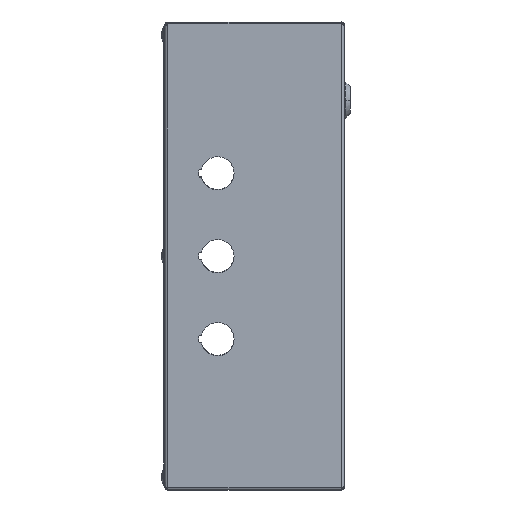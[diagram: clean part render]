
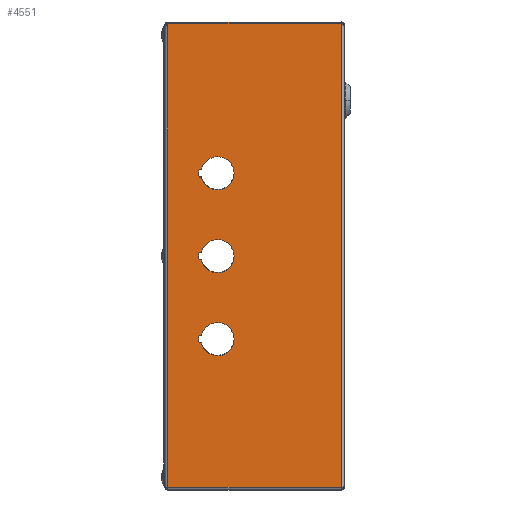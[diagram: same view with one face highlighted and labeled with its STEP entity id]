
A CAD part, front view. The second image highlights one B-rep face of the part: STEP entity #4551.
In plain terms, the highlighted planar face has unit normal (0, -1, 0).
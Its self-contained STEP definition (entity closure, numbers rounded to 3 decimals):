
#116 = DIRECTION ( 'NONE',  ( 0., 0., -1. ) ) ;
#122 = CARTESIAN_POINT ( 'NONE',  ( 6., 0., 1.9 ) ) ;
#250 = DIRECTION ( 'NONE',  ( 0., 0., -1. ) ) ;
#295 = VERTEX_POINT ( 'NONE', #122 ) ;
#659 = CARTESIAN_POINT ( 'NONE',  ( 121.2, 0., 310.3 ) ) ;
#719 = AXIS2_PLACEMENT_3D ( 'NONE', #3611, #7327, #6092 ) ;
#741 = LINE ( 'NONE', #5635, #2174 ) ;
#748 = LINE ( 'NONE', #1510, #7350 ) ;
#852 = ORIENTED_EDGE ( 'NONE', *, *, #13696, .T. ) ;
#868 = LINE ( 'NONE', #9897, #3781 ) ;
#966 = CARTESIAN_POINT ( 'NONE',  ( 6., 0., 309. ) ) ;
#984 = DIRECTION ( 'NONE',  ( -0.98, 0., 0.2 ) ) ;
#1073 = DIRECTION ( 'NONE',  ( 0., 0., -1. ) ) ;
#1103 = CARTESIAN_POINT ( 'NONE',  ( 6., 0., 310.3 ) ) ;
#1164 = DIRECTION ( 'NONE',  ( 0., 1., 0. ) ) ;
#1180 = EDGE_LOOP ( 'NONE', ( #3453, #11920, #8061, #6905, #8534, #2479 ) ) ;
#1210 = CIRCLE ( 'NONE', #1660, 11. ) ;
#1290 = AXIS2_PLACEMENT_3D ( 'NONE', #15051, #8016, #984 ) ;
#1494 = VERTEX_POINT ( 'NONE', #3379 ) ;
#1510 = CARTESIAN_POINT ( 'NONE',  ( 6., 0., 1.9 ) ) ;
#1660 = AXIS2_PLACEMENT_3D ( 'NONE', #2405, #14189, #3449 ) ;
#1778 = CARTESIAN_POINT ( 'NONE',  ( 6., 0., 309. ) ) ;
#1835 = DIRECTION ( 'NONE',  ( 1., 0., 0. ) ) ;
#1973 = CARTESIAN_POINT ( 'NONE',  ( 28.288, 0., 97.5 ) ) ;
#2137 = LINE ( 'NONE', #13218, #4909 ) ;
#2174 = VECTOR ( 'NONE', #15196, 1000. ) ;
#2326 = EDGE_LOOP ( 'NONE', ( #11305, #5621, #6330, #13538 ) ) ;
#2405 = CARTESIAN_POINT ( 'NONE',  ( 39., 0., 210. ) ) ;
#2479 = ORIENTED_EDGE ( 'NONE', *, *, #4192, .F. ) ;
#2713 = CARTESIAN_POINT ( 'NONE',  ( 28.288, 0., 157.5 ) ) ;
#2793 = VERTEX_POINT ( 'NONE', #9286 ) ;
#3131 = CARTESIAN_POINT ( 'NONE',  ( 26.753, 0., 207.5 ) ) ;
#3201 = VERTEX_POINT ( 'NONE', #9311 ) ;
#3235 = PLANE ( 'NONE',  #15007 ) ;
#3252 = CARTESIAN_POINT ( 'NONE',  ( 26.753, 0., 152.5 ) ) ;
#3379 = CARTESIAN_POINT ( 'NONE',  ( 26.753, 0., 97.5 ) ) ;
#3389 = DIRECTION ( 'NONE',  ( 0., -1., 0. ) ) ;
#3449 = DIRECTION ( 'NONE',  ( -0.974, 0., -0.227 ) ) ;
#3453 = ORIENTED_EDGE ( 'NONE', *, *, #4396, .T. ) ;
#3496 = VERTEX_POINT ( 'NONE', #1778 ) ;
#3611 = CARTESIAN_POINT ( 'NONE',  ( 39., 0., 155. ) ) ;
#3781 = VECTOR ( 'NONE', #11115, 1000. ) ;
#3816 = EDGE_CURVE ( 'NONE', #295, #11671, #748, .T. ) ;
#4005 = VERTEX_POINT ( 'NONE', #10126 ) ;
#4071 = CIRCLE ( 'NONE', #719, 11. ) ;
#4143 = EDGE_CURVE ( 'NONE', #6189, #10529, #13396, .T. ) ;
#4192 = EDGE_CURVE ( 'NONE', #13753, #7251, #8058, .T. ) ;
#4194 = VECTOR ( 'NONE', #1073, 1000. ) ;
#4196 = CARTESIAN_POINT ( 'NONE',  ( 6., 0., 310.3 ) ) ;
#4347 = ORIENTED_EDGE ( 'NONE', *, *, #13162, .T. ) ;
#4384 = DIRECTION ( 'NONE',  ( 1., 0., 0. ) ) ;
#4390 = ORIENTED_EDGE ( 'NONE', *, *, #10778, .T. ) ;
#4396 = EDGE_CURVE ( 'NONE', #13753, #3496, #2137, .T. ) ;
#4506 = CARTESIAN_POINT ( 'NONE',  ( 39., 0., 155. ) ) ;
#4551 = ADVANCED_FACE ( 'NONE', ( #12447, #7481, #12981, #9909 ), #3235, .T. ) ;
#4909 = VECTOR ( 'NONE', #250, 1000. ) ;
#4911 = CIRCLE ( 'NONE', #1290, 12.5 ) ;
#5185 = CARTESIAN_POINT ( 'NONE',  ( 28.288, 0., 212.5 ) ) ;
#5224 = EDGE_LOOP ( 'NONE', ( #10959, #4390, #6127, #5307 ) ) ;
#5227 = VERTEX_POINT ( 'NONE', #5934 ) ;
#5307 = ORIENTED_EDGE ( 'NONE', *, *, #11624, .T. ) ;
#5500 = LINE ( 'NONE', #2713, #7144 ) ;
#5621 = ORIENTED_EDGE ( 'NONE', *, *, #6463, .T. ) ;
#5635 = CARTESIAN_POINT ( 'NONE',  ( 28.288, 0., 102.5 ) ) ;
#5728 = CARTESIAN_POINT ( 'NONE',  ( 39., 0., 210. ) ) ;
#5750 = DIRECTION ( 'NONE',  ( -0.98, 0., 0.2 ) ) ;
#5820 = ORIENTED_EDGE ( 'NONE', *, *, #9817, .T. ) ;
#5934 = CARTESIAN_POINT ( 'NONE',  ( 26.753, 0., 102.5 ) ) ;
#5967 = DIRECTION ( 'NONE',  ( -1., 0., 0. ) ) ;
#6017 = VERTEX_POINT ( 'NONE', #13661 ) ;
#6092 = DIRECTION ( 'NONE',  ( -0.974, 0., -0.227 ) ) ;
#6127 = ORIENTED_EDGE ( 'NONE', *, *, #8596, .T. ) ;
#6140 = DIRECTION ( 'NONE',  ( 1., 0., 0. ) ) ;
#6189 = VERTEX_POINT ( 'NONE', #8171 ) ;
#6330 = ORIENTED_EDGE ( 'NONE', *, *, #10460, .T. ) ;
#6361 = EDGE_CURVE ( 'NONE', #8673, #12529, #11289, .T. ) ;
#6463 = EDGE_CURVE ( 'NONE', #10529, #3201, #13651, .T. ) ;
#6565 = CARTESIAN_POINT ( 'NONE',  ( 28.288, 0., 212.5 ) ) ;
#6736 = CARTESIAN_POINT ( 'NONE',  ( 28.288, 0., 102.5 ) ) ;
#6904 = DIRECTION ( 'NONE',  ( -0.974, 0., -0.227 ) ) ;
#6905 = ORIENTED_EDGE ( 'NONE', *, *, #13612, .T. ) ;
#7071 = EDGE_CURVE ( 'NONE', #2793, #6189, #4071, .T. ) ;
#7144 = VECTOR ( 'NONE', #12140, 1000. ) ;
#7251 = VERTEX_POINT ( 'NONE', #659 ) ;
#7327 = DIRECTION ( 'NONE',  ( 0., 1., 0. ) ) ;
#7350 = VECTOR ( 'NONE', #6140, 1000. ) ;
#7481 = FACE_BOUND ( 'NONE', #12818, .T. ) ;
#7698 = VECTOR ( 'NONE', #4384, 1000. ) ;
#7709 = LINE ( 'NONE', #966, #4194 ) ;
#8016 = DIRECTION ( 'NONE',  ( 0., 1., 0. ) ) ;
#8048 = CARTESIAN_POINT ( 'NONE',  ( 6., 0., 310.3 ) ) ;
#8058 = LINE ( 'NONE', #8048, #7698 ) ;
#8061 = ORIENTED_EDGE ( 'NONE', *, *, #3816, .T. ) ;
#8148 = DIRECTION ( 'NONE',  ( -0.98, 0., 0.2 ) ) ;
#8162 = EDGE_CURVE ( 'NONE', #7251, #6017, #11762, .T. ) ;
#8171 = CARTESIAN_POINT ( 'NONE',  ( 28.288, 0., 152.5 ) ) ;
#8178 = DIRECTION ( 'NONE',  ( 0., 1., 0. ) ) ;
#8359 = AXIS2_PLACEMENT_3D ( 'NONE', #5728, #1164, #8148 ) ;
#8484 = CARTESIAN_POINT ( 'NONE',  ( 26.753, 0., 97.5 ) ) ;
#8518 = VERTEX_POINT ( 'NONE', #1973 ) ;
#8534 = ORIENTED_EDGE ( 'NONE', *, *, #8162, .F. ) ;
#8596 = EDGE_CURVE ( 'NONE', #5227, #13210, #741, .T. ) ;
#8652 = VECTOR ( 'NONE', #116, 1000. ) ;
#8654 = EDGE_CURVE ( 'NONE', #3496, #295, #7709, .T. ) ;
#8673 = VERTEX_POINT ( 'NONE', #14003 ) ;
#9177 = VECTOR ( 'NONE', #14988, 1000. ) ;
#9286 = CARTESIAN_POINT ( 'NONE',  ( 28.288, 0., 157.5 ) ) ;
#9311 = CARTESIAN_POINT ( 'NONE',  ( 26.753, 0., 157.5 ) ) ;
#9681 = CIRCLE ( 'NONE', #10323, 11. ) ;
#9759 = AXIS2_PLACEMENT_3D ( 'NONE', #4506, #8178, #5750 ) ;
#9817 = EDGE_CURVE ( 'NONE', #13499, #4005, #1210, .T. ) ;
#9897 = CARTESIAN_POINT ( 'NONE',  ( 121.2, 0., 1.9 ) ) ;
#9909 = FACE_BOUND ( 'NONE', #2326, .T. ) ;
#10126 = CARTESIAN_POINT ( 'NONE',  ( 28.288, 0., 207.5 ) ) ;
#10323 = AXIS2_PLACEMENT_3D ( 'NONE', #13940, #15124, #6904 ) ;
#10460 = EDGE_CURVE ( 'NONE', #3201, #2793, #5500, .T. ) ;
#10529 = VERTEX_POINT ( 'NONE', #14609 ) ;
#10631 = VECTOR ( 'NONE', #1835, 1000. ) ;
#10778 = EDGE_CURVE ( 'NONE', #1494, #5227, #4911, .T. ) ;
#10898 = LINE ( 'NONE', #3131, #11075 ) ;
#10959 = ORIENTED_EDGE ( 'NONE', *, *, #13488, .T. ) ;
#11010 = VECTOR ( 'NONE', #5967, 1000. ) ;
#11075 = VECTOR ( 'NONE', #14861, 1000. ) ;
#11115 = DIRECTION ( 'NONE',  ( 0., 0., 1. ) ) ;
#11289 = CIRCLE ( 'NONE', #8359, 12.5 ) ;
#11305 = ORIENTED_EDGE ( 'NONE', *, *, #4143, .T. ) ;
#11624 = EDGE_CURVE ( 'NONE', #13210, #8518, #9681, .T. ) ;
#11671 = VERTEX_POINT ( 'NONE', #11895 ) ;
#11762 = LINE ( 'NONE', #14122, #8652 ) ;
#11895 = CARTESIAN_POINT ( 'NONE',  ( 121.2, 0., 1.9 ) ) ;
#11920 = ORIENTED_EDGE ( 'NONE', *, *, #8654, .T. ) ;
#12140 = DIRECTION ( 'NONE',  ( 1., 0., 0. ) ) ;
#12447 = FACE_OUTER_BOUND ( 'NONE', #1180, .T. ) ;
#12529 = VERTEX_POINT ( 'NONE', #13743 ) ;
#12818 = EDGE_LOOP ( 'NONE', ( #4347, #14496, #852, #5820 ) ) ;
#12981 = FACE_BOUND ( 'NONE', #5224, .T. ) ;
#13162 = EDGE_CURVE ( 'NONE', #4005, #8673, #10898, .T. ) ;
#13210 = VERTEX_POINT ( 'NONE', #6736 ) ;
#13218 = CARTESIAN_POINT ( 'NONE',  ( 6., 0., 310.3 ) ) ;
#13352 = LINE ( 'NONE', #6565, #10631 ) ;
#13396 = LINE ( 'NONE', #3252, #9177 ) ;
#13488 = EDGE_CURVE ( 'NONE', #8518, #1494, #14101, .T. ) ;
#13499 = VERTEX_POINT ( 'NONE', #5185 ) ;
#13538 = ORIENTED_EDGE ( 'NONE', *, *, #7071, .T. ) ;
#13612 = EDGE_CURVE ( 'NONE', #11671, #6017, #868, .T. ) ;
#13651 = CIRCLE ( 'NONE', #9759, 12.5 ) ;
#13661 = CARTESIAN_POINT ( 'NONE',  ( 121.2, 0., 309. ) ) ;
#13696 = EDGE_CURVE ( 'NONE', #12529, #13499, #13352, .T. ) ;
#13743 = CARTESIAN_POINT ( 'NONE',  ( 26.753, 0., 212.5 ) ) ;
#13753 = VERTEX_POINT ( 'NONE', #4196 ) ;
#13940 = CARTESIAN_POINT ( 'NONE',  ( 39., 0., 100. ) ) ;
#14003 = CARTESIAN_POINT ( 'NONE',  ( 26.753, 0., 207.5 ) ) ;
#14101 = LINE ( 'NONE', #8484, #11010 ) ;
#14122 = CARTESIAN_POINT ( 'NONE',  ( 121.2, 0., 310.3 ) ) ;
#14189 = DIRECTION ( 'NONE',  ( 0., 1., 0. ) ) ;
#14496 = ORIENTED_EDGE ( 'NONE', *, *, #6361, .T. ) ;
#14609 = CARTESIAN_POINT ( 'NONE',  ( 26.753, 0., 152.5 ) ) ;
#14861 = DIRECTION ( 'NONE',  ( -1., 0., 0. ) ) ;
#14971 = DIRECTION ( 'NONE',  ( 0., 0., 1. ) ) ;
#14988 = DIRECTION ( 'NONE',  ( -1., 0., 0. ) ) ;
#15007 = AXIS2_PLACEMENT_3D ( 'NONE', #1103, #3389, #14971 ) ;
#15051 = CARTESIAN_POINT ( 'NONE',  ( 39., 0., 100. ) ) ;
#15124 = DIRECTION ( 'NONE',  ( 0., 1., 0. ) ) ;
#15196 = DIRECTION ( 'NONE',  ( 1., 0., 0. ) ) ;
